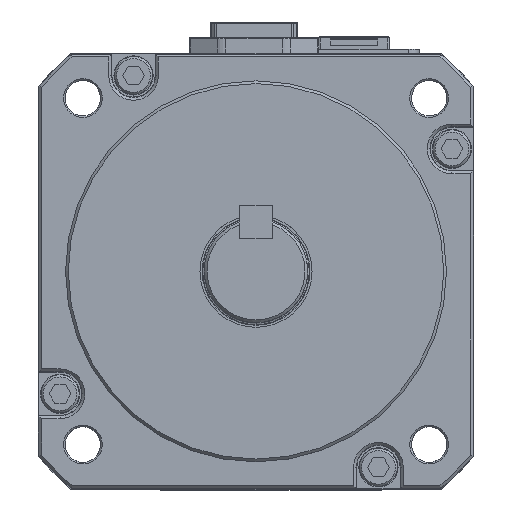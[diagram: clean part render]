
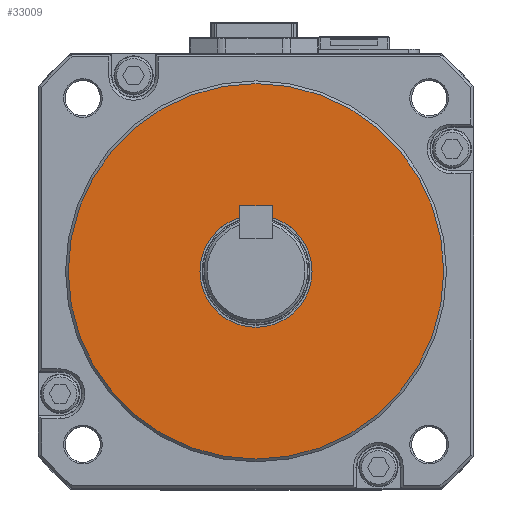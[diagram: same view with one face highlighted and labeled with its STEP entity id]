
A CAD part, top view. The second image highlights one B-rep face of the part: STEP entity #33009.
In plain terms, the highlighted planar face has unit normal (0, 0, 1).
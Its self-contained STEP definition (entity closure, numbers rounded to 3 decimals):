
#2362 = CARTESIAN_POINT ( 'NONE',  ( 0., 0., 13. ) ) ;
#3370 = EDGE_LOOP ( 'NONE', ( #6929 ) ) ;
#5910 = CARTESIAN_POINT ( 'NONE',  ( 34.5, 0., 13. ) ) ;
#6143 = CIRCLE ( 'NONE', #58981, 10.3 ) ;
#6507 = DIRECTION ( 'NONE',  ( 0., 0., 1. ) ) ;
#6929 = ORIENTED_EDGE ( 'NONE', *, *, #25259, .T. ) ;
#7579 = DIRECTION ( 'NONE',  ( 1., 0., 0. ) ) ;
#11673 = VERTEX_POINT ( 'NONE', #5910 ) ;
#13353 = CARTESIAN_POINT ( 'NONE',  ( 0., 0., 13. ) ) ;
#14859 = EDGE_LOOP ( 'NONE', ( #34454 ) ) ;
#14860 = DIRECTION ( 'NONE',  ( 1., 0., 0. ) ) ;
#16976 = FACE_BOUND ( 'NONE', #14859, .T. ) ;
#17605 = CARTESIAN_POINT ( 'NONE',  ( 10.3, 0., 13. ) ) ;
#21100 = AXIS2_PLACEMENT_3D ( 'NONE', #13353, #6507, #7579 ) ;
#23346 = VERTEX_POINT ( 'NONE', #17605 ) ;
#24319 = DIRECTION ( 'NONE',  ( 1., 0., 0. ) ) ;
#25259 = EDGE_CURVE ( 'NONE', #11673, #11673, #31660, .T. ) ;
#31660 = CIRCLE ( 'NONE', #69447, 34.5 ) ;
#33009 = ADVANCED_FACE ( 'NONE', ( #16976, #70866 ), #59422, .T. ) ;
#34454 = ORIENTED_EDGE ( 'NONE', *, *, #56459, .F. ) ;
#53338 = CARTESIAN_POINT ( 'NONE',  ( 0., 0., 13. ) ) ;
#56459 = EDGE_CURVE ( 'NONE', #23346, #23346, #6143, .T. ) ;
#56665 = DIRECTION ( 'NONE',  ( 0., 0., 1. ) ) ;
#58981 = AXIS2_PLACEMENT_3D ( 'NONE', #53338, #64806, #14860 ) ;
#59422 = PLANE ( 'NONE',  #21100 ) ;
#64806 = DIRECTION ( 'NONE',  ( 0., 0., 1. ) ) ;
#69447 = AXIS2_PLACEMENT_3D ( 'NONE', #2362, #56665, #24319 ) ;
#70866 = FACE_OUTER_BOUND ( 'NONE', #3370, .T. ) ;
